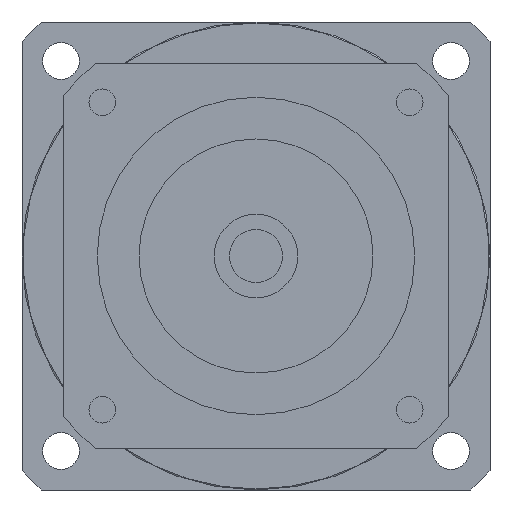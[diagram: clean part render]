
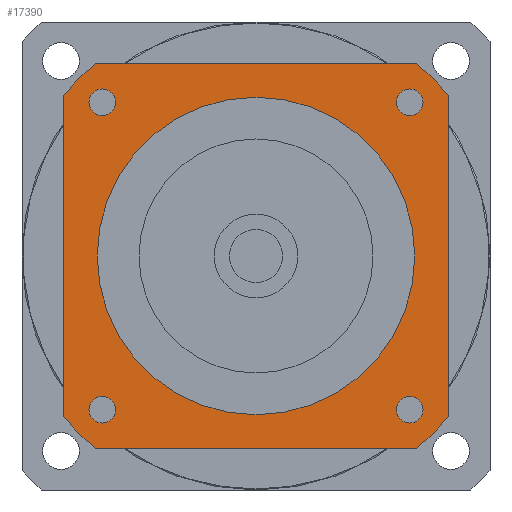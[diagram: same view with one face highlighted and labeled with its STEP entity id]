
A CAD part, left-side view. The second image highlights one B-rep face of the part: STEP entity #17390.
In plain terms, the highlighted planar face has unit normal (-1, 0, 0) as drawn and (0, 0, -1) by its records, which use the part's own axes.
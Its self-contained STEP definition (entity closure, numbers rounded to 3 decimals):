
#15190=CARTESIAN_POINT('',(57.5,48.153,-59.7));
#15200=VERTEX_POINT('',#15190);
#15230=CARTESIAN_POINT('',(57.5,57.5,-59.7));
#15240=DIRECTION('',(0.,-1.,0.));
#15250=VECTOR('',#15240,1000.);
#15260=LINE('',#15230,#15250);
#15270=CARTESIAN_POINT('',(57.5,-48.153,-59.7));
#15280=VERTEX_POINT('',#15270);
#15290=EDGE_CURVE('',#15200,#15280,#15260,.T.);
#15500=CARTESIAN_POINT('',(48.153,57.5,-59.7));
#15510=VERTEX_POINT('',#15500);
#15540=CARTESIAN_POINT('',(0.,0.,
-59.7));
#15550=DIRECTION('',(0.,0.,-1.));
#15560=DIRECTION('',(1.,0.,0.));
#15570=AXIS2_PLACEMENT_3D('',#15540,#15550,#15560);
#15580=CIRCLE('',#15570,75.);
#15590=EDGE_CURVE('',#15510,#15200,#15580,.T.);
#15770=CARTESIAN_POINT('',(48.153,-57.5,-59.7));
#15780=VERTEX_POINT('',#15770);
#15810=CARTESIAN_POINT('',(57.5,-57.5,-59.7));
#15820=DIRECTION('',(-1.,0.,0.));
#15830=VECTOR('',#15820,1000.);
#15840=LINE('',#15810,#15830);
#15850=CARTESIAN_POINT('',(-48.153,-57.5,-59.7));
#15860=VERTEX_POINT('',#15850);
#15870=EDGE_CURVE('',#15780,#15860,#15840,.T.);
#16050=CARTESIAN_POINT('',(0.,0.,
-59.7));
#16060=DIRECTION('',(0.,0.,-1.));
#16070=DIRECTION('',(1.,0.,0.));
#16080=AXIS2_PLACEMENT_3D('',#16050,#16060,#16070);
#16090=CIRCLE('',#16080,75.);
#16100=EDGE_CURVE('',#15280,#15780,#16090,.T.);
#16170=CARTESIAN_POINT('',(57.5,57.5,-59.7));
#16180=DIRECTION('',(0.,0.,-1.));
#16190=DIRECTION('',(1.,0.,0.));
#16200=AXIS2_PLACEMENT_3D('',#16170,#16180,#16190);
#16210=PLANE('',#16200);
#16220=CARTESIAN_POINT('',(-45.962,45.962,-59.7));
#16230=DIRECTION('',(0.,0.,-1.));
#16240=DIRECTION('',(-1.,0.,0.));
#16250=AXIS2_PLACEMENT_3D('',#16220,#16230,#16240);
#16260=CIRCLE('',#16250,4.);
#16270=CARTESIAN_POINT('',(-49.962,45.962,-59.7));
#16280=VERTEX_POINT('',#16270);
#16290=CARTESIAN_POINT('',(-41.962,45.962,-59.7));
#16300=VERTEX_POINT('',#16290);
#16310=EDGE_CURVE('',#16280,#16300,#16260,.T.);
#16320=ORIENTED_EDGE('',*,*,#16310,.F.);
#16330=EDGE_CURVE('',#16300,#16280,#16260,.T.);
#16340=ORIENTED_EDGE('',*,*,#16330,.F.);
#16350=EDGE_LOOP('',(#16340,#16320));
#16360=FACE_BOUND('',#16350,.T.);
#16370=CARTESIAN_POINT('',(45.962,45.962,-59.7));
#16380=DIRECTION('',(0.,0.,-1.));
#16390=DIRECTION('',(0.,1.,0.));
#16400=AXIS2_PLACEMENT_3D('',#16370,#16380,#16390);
#16410=CIRCLE('',#16400,4.);
#16420=CARTESIAN_POINT('',(45.962,49.962,-59.7));
#16430=VERTEX_POINT('',#16420);
#16440=CARTESIAN_POINT('',(45.962,41.962,-59.7));
#16450=VERTEX_POINT('',#16440);
#16460=EDGE_CURVE('',#16430,#16450,#16410,.T.);
#16470=ORIENTED_EDGE('',*,*,#16460,.F.);
#16480=EDGE_CURVE('',#16450,#16430,#16410,.T.);
#16490=ORIENTED_EDGE('',*,*,#16480,.F.);
#16500=EDGE_LOOP('',(#16490,#16470));
#16510=FACE_BOUND('',#16500,.T.);
#16520=CARTESIAN_POINT('',(0.,0.,
-59.7));
#16530=DIRECTION('',(0.,0.,1.));
#16540=DIRECTION('',(0.,1.,0.));
#16550=AXIS2_PLACEMENT_3D('',#16520,#16530,#16540);
#16560=CIRCLE('',#16550,47.5);
#16570=CARTESIAN_POINT('',(-47.5,0.,-59.7));
#16580=VERTEX_POINT('',#16570);
#16590=CARTESIAN_POINT('',(47.5,0.,-59.7));
#16600=VERTEX_POINT('',#16590);
#16610=EDGE_CURVE('',#16580,#16600,#16560,.T.);
#16620=ORIENTED_EDGE('',*,*,#16610,.T.);
#16630=CARTESIAN_POINT('',(0.,47.5,-59.7));
#16640=VERTEX_POINT('',#16630);
#16650=EDGE_CURVE('',#16640,#16580,#16560,.T.);
#16660=ORIENTED_EDGE('',*,*,#16650,.T.);
#16670=EDGE_CURVE('',#16600,#16640,#16560,.T.);
#16680=ORIENTED_EDGE('',*,*,#16670,.T.);
#16690=EDGE_LOOP('',(#16680,#16660,#16620));
#16700=FACE_BOUND('',#16690,.T.);
#16710=CARTESIAN_POINT('',(45.962,-45.962,-59.7));
#16720=DIRECTION('',(0.,0.,-1.));
#16730=DIRECTION('',(1.,0.,0.));
#16740=AXIS2_PLACEMENT_3D('',#16710,#16720,#16730);
#16750=CIRCLE('',#16740,4.);
#16760=CARTESIAN_POINT('',(49.962,-45.962,-59.7));
#16770=VERTEX_POINT('',#16760);
#16780=CARTESIAN_POINT('',(41.962,-45.962,-59.7));
#16790=VERTEX_POINT('',#16780);
#16800=EDGE_CURVE('',#16770,#16790,#16750,.T.);
#16810=ORIENTED_EDGE('',*,*,#16800,.F.);
#16820=EDGE_CURVE('',#16790,#16770,#16750,.T.);
#16830=ORIENTED_EDGE('',*,*,#16820,.F.);
#16840=EDGE_LOOP('',(#16830,#16810));
#16850=FACE_BOUND('',#16840,.T.);
#16860=CARTESIAN_POINT('',(-45.962,-45.962,-59.7));
#16870=DIRECTION('',(0.,0.,-1.));
#16880=DIRECTION('',(0.,-1.,0.));
#16890=AXIS2_PLACEMENT_3D('',#16860,#16870,#16880);
#16900=CIRCLE('',#16890,4.);
#16910=CARTESIAN_POINT('',(-45.962,-49.962,-59.7));
#16920=VERTEX_POINT('',#16910);
#16930=CARTESIAN_POINT('',(-45.962,-41.962,-59.7));
#16940=VERTEX_POINT('',#16930);
#16950=EDGE_CURVE('',#16920,#16940,#16900,.T.);
#16960=ORIENTED_EDGE('',*,*,#16950,.F.);
#16970=EDGE_CURVE('',#16940,#16920,#16900,.T.);
#16980=ORIENTED_EDGE('',*,*,#16970,.F.);
#16990=EDGE_LOOP('',(#16980,#16960));
#17000=FACE_BOUND('',#16990,.T.);
#17010=CARTESIAN_POINT('',(-57.5,57.5,-59.7));
#17020=DIRECTION('',(1.,0.,0.));
#17030=VECTOR('',#17020,1000.);
#17040=LINE('',#17010,#17030);
#17050=CARTESIAN_POINT('',(-48.153,57.5,-59.7));
#17060=VERTEX_POINT('',#17050);
#17070=EDGE_CURVE('',#17060,#15510,#17040,.T.);
#17080=ORIENTED_EDGE('',*,*,#17070,.T.);
#17090=CARTESIAN_POINT('',(0.,0.,
-59.7));
#17100=DIRECTION('',(0.,0.,-1.));
#17110=DIRECTION('',(1.,0.,0.));
#17120=AXIS2_PLACEMENT_3D('',#17090,#17100,#17110);
#17130=CIRCLE('',#17120,75.);
#17140=CARTESIAN_POINT('',(-57.5,48.153,-59.7));
#17150=VERTEX_POINT('',#17140);
#17160=EDGE_CURVE('',#17150,#17060,#17130,.T.);
#17170=ORIENTED_EDGE('',*,*,#17160,.T.);
#17180=CARTESIAN_POINT('',(-57.5,-57.5,-59.7));
#17190=DIRECTION('',(0.,1.,0.));
#17200=VECTOR('',#17190,1000.);
#17210=LINE('',#17180,#17200);
#17220=CARTESIAN_POINT('',(-57.5,-48.153,-59.7));
#17230=VERTEX_POINT('',#17220);
#17240=EDGE_CURVE('',#17230,#17150,#17210,.T.);
#17250=ORIENTED_EDGE('',*,*,#17240,.T.);
#17260=CARTESIAN_POINT('',(0.,0.,
-59.7));
#17270=DIRECTION('',(0.,0.,-1.));
#17280=DIRECTION('',(1.,0.,0.));
#17290=AXIS2_PLACEMENT_3D('',#17260,#17270,#17280);
#17300=CIRCLE('',#17290,75.);
#17310=EDGE_CURVE('',#15860,#17230,#17300,.T.);
#17320=ORIENTED_EDGE('',*,*,#17310,.T.);
#17330=ORIENTED_EDGE('',*,*,#15870,.T.);
#17340=ORIENTED_EDGE('',*,*,#16100,.T.);
#17350=ORIENTED_EDGE('',*,*,#15290,.T.);
#17360=ORIENTED_EDGE('',*,*,#15590,.T.);
#17370=EDGE_LOOP('',(#17360,#17350,#17340,#17330,#17320,#17250,#17170,
#17080));
#17380=FACE_OUTER_BOUND('',#17370,.T.);
#17390=ADVANCED_FACE('',(#16360,#16510,#16700,#16850,#17000,#17380),
#16210,.T.);
